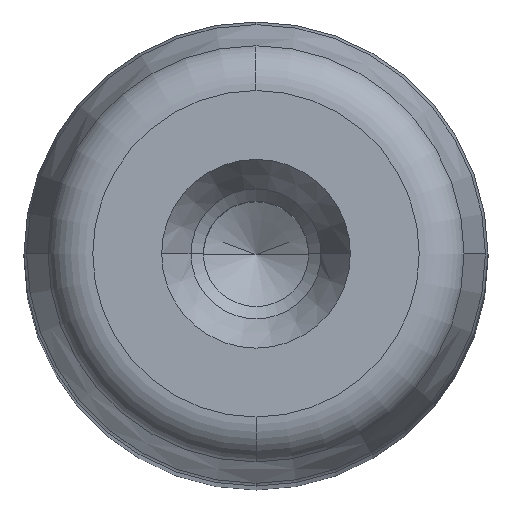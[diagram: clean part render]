
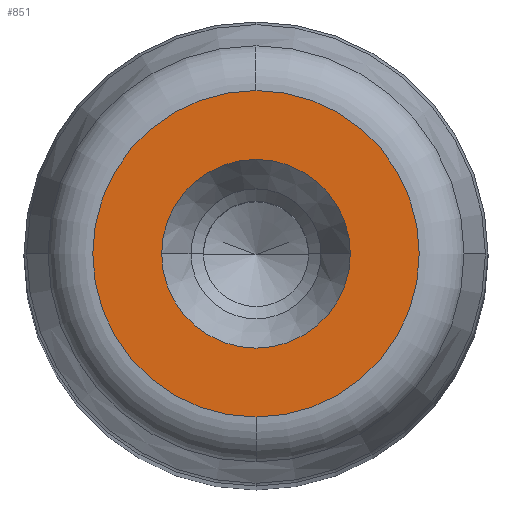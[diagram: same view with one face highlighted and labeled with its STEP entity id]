
A CAD part, top view. The second image highlights one B-rep face of the part: STEP entity #851.
In plain terms, the highlighted planar face has unit normal (0, 0, 1) as drawn and (0, 1, 0) by its records, which use the part's own axes.
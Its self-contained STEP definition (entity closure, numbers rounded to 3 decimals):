
#281=CARTESIAN_POINT('',(6.1,160.0,0.0));
#282=VERTEX_POINT('',#281);
#289=CARTESIAN_POINT('',(-6.1,160.0,0.));
#290=VERTEX_POINT('',#289);
#291=CARTESIAN_POINT('',(0.0,160.0,0.0));
#292=DIRECTION('',(0.0,1.0,0.0));
#293=DIRECTION('',(1.0,0.0,0.0));
#294=AXIS2_PLACEMENT_3D('',#291,#292,#293);
#295=CIRCLE('',#294,6.1);
#296=EDGE_CURVE('',#282,#290,#295,.T.);
#313=CARTESIAN_POINT('',(0.0,160.0,10.554));
#314=VERTEX_POINT('',#313);
#324=CARTESIAN_POINT('',(0.,160.0,-10.554));
#325=VERTEX_POINT('',#324);
#326=CARTESIAN_POINT('',(0.0,160.0,0.0));
#327=DIRECTION('',(0.0,1.0,0.0));
#328=DIRECTION('',(1.0,0.0,0.0));
#329=AXIS2_PLACEMENT_3D('',#326,#327,#328);
#330=CIRCLE('',#329,10.554);
#331=EDGE_CURVE('',#325,#314,#330,.T.);
#812=CARTESIAN_POINT('',(10.554,160.0,0.0));
#813=VERTEX_POINT('',#812);
#814=CARTESIAN_POINT('',(0.0,160.0,0.0));
#815=DIRECTION('',(0.0,1.0,0.0));
#816=DIRECTION('',(1.0,0.0,0.0));
#817=AXIS2_PLACEMENT_3D('',#814,#815,#816);
#818=CIRCLE('',#817,10.554);
#819=EDGE_CURVE('',#813,#325,#818,.T.);
#821=CARTESIAN_POINT('',(0.0,160.0,0.0));
#822=DIRECTION('',(0.0,1.0,0.0));
#823=DIRECTION('',(1.0,0.0,0.0));
#824=AXIS2_PLACEMENT_3D('',#821,#822,#823);
#825=CIRCLE('',#824,10.554);
#826=EDGE_CURVE('',#314,#813,#825,.T.);
#831=CARTESIAN_POINT('',(-11.61,160.0,-11.61));
#832=DIRECTION('',(0.0,1.0,0.0));
#833=DIRECTION('',(0.0,0.0,1.0));
#834=AXIS2_PLACEMENT_3D('',#831,#832,#833);
#835=PLANE('',#834);
#836=ORIENTED_EDGE('',*,*,#819,.T.);
#837=ORIENTED_EDGE('',*,*,#331,.T.);
#838=ORIENTED_EDGE('',*,*,#826,.T.);
#839=EDGE_LOOP('',(#836,#837,#838));
#840=FACE_OUTER_BOUND('',#839,.T.);
#841=ORIENTED_EDGE('',*,*,#296,.F.);
#842=CARTESIAN_POINT('',(0.0,160.0,0.0));
#843=DIRECTION('',(0.0,1.0,0.0));
#844=DIRECTION('',(1.0,0.0,0.0));
#845=AXIS2_PLACEMENT_3D('',#842,#843,#844);
#846=CIRCLE('',#845,6.1);
#847=EDGE_CURVE('',#290,#282,#846,.T.);
#848=ORIENTED_EDGE('',*,*,#847,.F.);
#849=EDGE_LOOP('',(#841,#848));
#850=FACE_BOUND('',#849,.T.);
#851=ADVANCED_FACE('',(#840,#850),#835,.T.);
